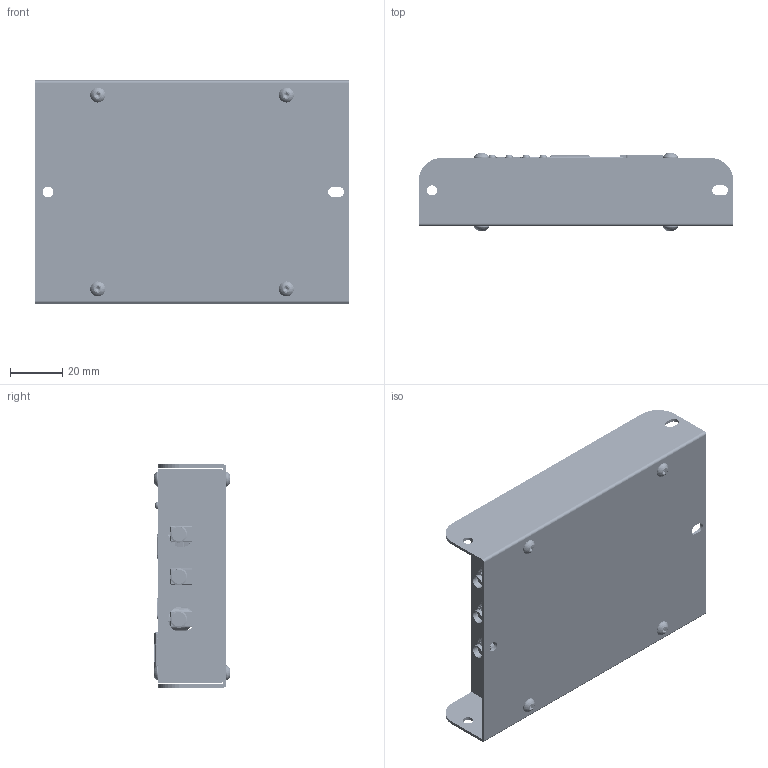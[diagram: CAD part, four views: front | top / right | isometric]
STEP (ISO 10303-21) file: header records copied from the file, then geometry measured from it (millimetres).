
FILE_DESCRIPTION (( 'STEP AP203' ), '1' );
FILE_NAME ('CUA32_Retrofit_02.STEP', '2010-09-15T22:48:31', ( '' ), ( '' ), 'SwSTEP 2.0', 'SolidWorks 2011', '' );
FILE_SCHEMA (( 'CONFIG_CONTROL_DESIGN' ));
Length unit declared in the file: millimetre
Products named in the file (19): Retro_Side_SUB-D; Retro_Side_SMA; Retro_Enclosure_Jumper-Spacer; socket button head screw_iso_ISO 7380 - M3 x 6 --- 6N; DB9M; D-Sub25_Male; Led_1142488; USB-straight; 615008138021-rev1; 7499210123; 25-SubD; Coax_Connector90; Retro_Enclosure_Bottom_02; CUA32-Retrofit_PCB_02; CUA32_Retrofit_02; CUA32-Retrofit_PCB_FE-Dummy; PCB_Slave_Comp; PCB_Slave; Retro_Enclosure_Top_02
Assembly tree (30 placements, depth 2):
  CUA32_Retrofit_02
    Retro_Side_SMA
    Led_1142488  x4
    USB-straight
    D-Sub25_Male
    DB9M
    socket button head screw_iso_ISO 7380 - M3 x 6 --- 6N  x8
    CUA32-Retrofit_PCB_02
    Retro_Enclosure_Bottom_02
    Coax_Connector90  x3
    CUA32-Retrofit_PCB_FE-Dummy
    Retro_Enclosure_Top_02
    25-SubD
    Retro_Enclosure_Jumper-Spacer
    7499210123
    PCB_Slave
    Retro_Side_SUB-D
    615008138021-rev1
    PCB_Slave_Comp
Bounding box: 120 x 29.3 x 85.2 mm (x, y, z)
Volume: 79340.3 mm3; surface area: 114002 mm2
Topology: 33 solids, 109 shells, 4330 faces, 12795 edges, 8596 vertices
Faces by surface type: plane 2104, cylinder 1782, bspline 263, cone 107, torus 58, sphere 16
Entity records: 153920 total; most frequent: CARTESIAN_POINT 46863, ORIENTED_EDGE 21338, DIRECTION 21199, EDGE_CURVE 11667, VERTEX_POINT 8015, LINE 7101, VECTOR 7101, AXIS2_PLACEMENT_3D 7049
